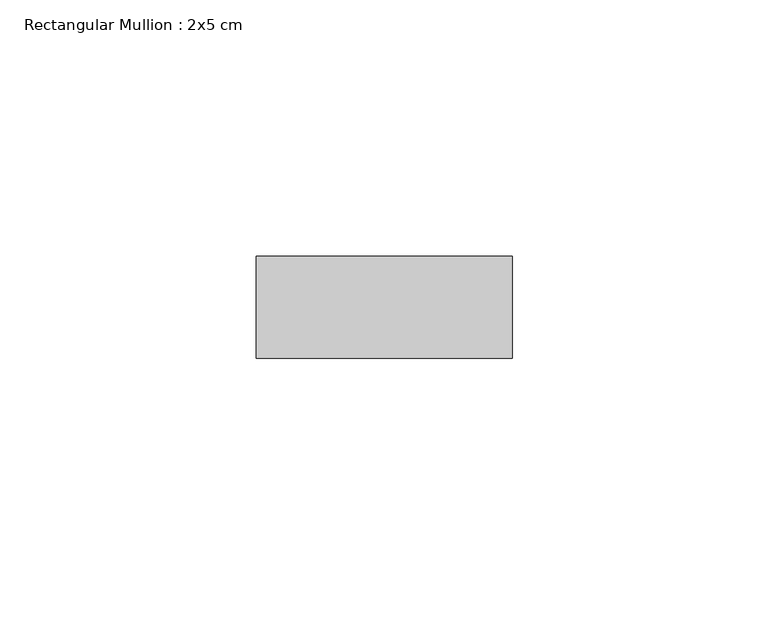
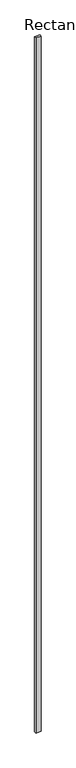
"""IFC4 building model written with IfcOpenShell, lengths in millimetres: member geometry, Rectangular Mullion : 2x5 cm."""

import ifcopenshell
import ifcopenshell.guid

model = None  # the IFC model being written
_history = None  # IfcOwnerHistory: only IFC2X3 demands one
_inside = {}  # id of a spatial element -> (the spatial element, [elements in it])
_under = {}  # id of a project, library or spatial element -> (it, [spatial elements below it])
_declared = {}  # id of a project -> (the project, [libraries it declares])
_typed = {}  # id of a type object -> (the type object, [elements of that type])
_made_of = {}  # id of a material, layer set ... -> (it, [elements and type objects made of it])


def new_model(schema):
    """Start an empty IFC model of exactly this schema.

    Asked for "IFC4X3", IfcOpenShell would pick the latest addendum, in which some entities
    have other attributes; the version numbers below select the first issue.
    IFC2X3 requires an IfcOwnerHistory on every rooted entity: one is made here for all.
    """
    global model, _history
    if schema == "IFC4X3":
        model = ifcopenshell.file(schema_version=(4, 3, 0, 0))
    else:
        model = ifcopenshell.file(schema=schema)
    _inside.clear()
    _under.clear()
    _declared.clear()
    _typed.clear()
    _made_of.clear()
    _history = None
    if model.schema == "IFC2X3":
        org = make("IfcOrganization", Name="unknown")
        user = make(
            "IfcPersonAndOrganization",
            ThePerson=make("IfcPerson", FamilyName="unknown"),
            TheOrganization=org,
        )
        app = make(
            "IfcApplication",
            ApplicationDeveloper=org,
            Version="unknown",
            ApplicationFullName="unknown",
            ApplicationIdentifier="unknown",
        )
        _history = make(
            "IfcOwnerHistory",
            OwningUser=user,
            OwningApplication=app,
            ChangeAction="ADDED",
            CreationDate=0,
        )
    return model


def make(cls, **values):
    """One entity of the class cls with the attributes given. An attribute that is None is left unset."""
    return model.create_entity(
        cls, **{name: value for name, value in values.items() if value is not None}
    )


def rooted(cls, **values):
    """An entity with a GlobalId (a new one), such as an element, a storey or a relation."""
    return make(cls, GlobalId=ifcopenshell.guid.new(), OwnerHistory=_history, **values)


def si_unit(unit_type, name, prefix=None):
    """IfcSIUnit, for example si_unit("LENGTHUNIT", "METRE", prefix="MILLI")."""
    return make("IfcSIUnit", UnitType=unit_type, Prefix=prefix, Name=name)


def assignment(units):
    """IfcUnitAssignment: the units of a project."""
    return None if units is None else make("IfcUnitAssignment", Units=units)


def point(xyz):
    """IfcCartesianPoint."""
    return None if xyz is None else make("IfcCartesianPoint", Coordinates=xyz)


def direction(xyz):
    """IfcDirection."""
    return None if xyz is None else make("IfcDirection", DirectionRatios=xyz)


def frame(location, z_axis=None, x_axis=None):
    """IfcAxis2Placement3D, a coordinate frame: its origin and axes. An axis left out is left unset."""
    return make(
        "IfcAxis2Placement3D",
        Location=point(location),
        Axis=direction(z_axis),
        RefDirection=direction(x_axis),
    )


def origin():
    """The frame at (0, 0, 0) with its axes left unset."""
    return frame((0.0, 0.0, 0.0))


def place(relative_to, where):
    """IfcLocalPlacement: puts the frame where relative to a parent placement (None: the world)."""
    return make(
        "IfcLocalPlacement", PlacementRelTo=relative_to, RelativePlacement=where
    )


def context(
    kind, dimensions, precision=None, world=None, true_north=None, identifier=None
):
    """IfcGeometricRepresentationContext, for example the 3D "Model" context."""
    return make(
        "IfcGeometricRepresentationContext",
        ContextIdentifier=identifier,
        ContextType=kind,
        CoordinateSpaceDimension=dimensions,
        Precision=precision,
        WorldCoordinateSystem=world,
        TrueNorth=true_north,
    )


def project(units=None, contexts=None):
    """IfcProject with its units and contexts."""
    return rooted(
        "IfcProject",
        Name="project",
        RepresentationContexts=contexts,
        UnitsInContext=assignment(units),
    )


def spatial(cls, under=None, at=None, **own):
    """A site, building, storey or space (cls), placed at a placement, below another one or the project."""
    s = rooted(cls, ObjectPlacement=at, **own)
    if under is not None:
        _under.setdefault(under.id(), (under, []))[1].append(s)
    return s


def polyline(points):
    """IfcPolyline through the points."""
    return make("IfcPolyline", Points=[point(p) for p in points])


def outline(outer, holes=None, kind="AREA"):
    """IfcArbitraryClosedProfileDef: a profile drawn as a closed curve; with holes, ...WithVoids."""
    if holes is None:
        return make("IfcArbitraryClosedProfileDef", ProfileType=kind, OuterCurve=outer)
    return make(
        "IfcArbitraryProfileDefWithVoids",
        ProfileType=kind,
        OuterCurve=outer,
        InnerCurves=holes,
    )


def extrude(swept, where, along, depth):
    """IfcExtrudedAreaSolid: the profile swept, set in the frame where, extruded along a direction by depth."""
    return make(
        "IfcExtrudedAreaSolid",
        SweptArea=swept,
        Position=where,
        ExtrudedDirection=direction(along),
        Depth=depth,
    )


def shape(context_of_items, identifier, shape_type, items):
    """IfcShapeRepresentation: the items that make up one representation, for example the "Body"."""
    return make(
        "IfcShapeRepresentation",
        ContextOfItems=context_of_items,
        RepresentationIdentifier=identifier,
        RepresentationType=shape_type,
        Items=items,
    )


def source(mapping_origin, context_of_items, identifier, shape_type, items):
    """IfcRepresentationMap: a shape defined once, which mapped items show again and again."""
    return make(
        "IfcRepresentationMap",
        MappingOrigin=mapping_origin,
        MappedRepresentation=shape(context_of_items, identifier, shape_type, items),
    )


def transform(
    local_origin,
    x_axis=None,
    y_axis=None,
    z_axis=None,
    scale=None,
    scale2=None,
    scale3=None,
    uniform=True,
):
    """IfcCartesianTransformationOperator3D, or its non-uniform kind. x_axis, y_axis, z_axis: its Axis1, 2, 3."""
    if uniform:
        return make(
            "IfcCartesianTransformationOperator3D",
            Axis1=direction(x_axis),
            Axis2=direction(y_axis),
            LocalOrigin=point(local_origin),
            Scale=scale,
            Axis3=direction(z_axis),
        )
    return make(
        "IfcCartesianTransformationOperator3DnonUniform",
        Axis1=direction(x_axis),
        Axis2=direction(y_axis),
        LocalOrigin=point(local_origin),
        Scale=scale,
        Axis3=direction(z_axis),
        Scale2=scale2,
        Scale3=scale3,
    )


def mapped(mapping_source, mapping_target):
    """IfcMappedItem: shows the shape of a source again, moved by a transform."""
    return make(
        "IfcMappedItem", MappingSource=mapping_source, MappingTarget=mapping_target
    )


def made_of(thing, what):
    """Note that an element or type object is made of a material, layer set ...; save() writes the relation."""
    if what is not None:
        _made_of.setdefault(what.id(), (what, []))[1].append(thing)
    return thing


def element(
    cls,
    number,
    at=None,
    inside=None,
    cuts=None,
    type_object=None,
    material=None,
    context=None,
    identifier="Body",
    shape_type=None,
    held_by="IfcProductDefinitionShape",
    body=None,
    shapes=None,
    **own,
):
    """One element of the class cls, such as IfcWall. Its Tag is "e" and its number.

    at: its placement. inside: the storey or other place that contains it. cuts: it is an
    opening in that element (IfcRelVoidsElement). A single representation is given by context,
    identifier, shape_type and body (its items); several are given by shapes. held_by: the class
    of the entity that holds the representations. save() writes the other relations.
    """
    e = rooted(cls, Tag="e%d" % number, ObjectPlacement=at, **own)
    if body is not None:
        shapes = [shape(context, identifier, shape_type, body)]
    if shapes is not None:
        e.Representation = make(held_by, Representations=shapes)
    if inside is not None:
        _inside.setdefault(inside.id(), (inside, []))[1].append(e)
    if cuts is not None:
        rooted(
            "IfcRelVoidsElement", RelatingBuildingElement=cuts, RelatedOpeningElement=e
        )
    if type_object is not None:
        _typed.setdefault(type_object.id(), (type_object, []))[1].append(e)
    return made_of(e, material)


def aggregate(whole, parts):
    """IfcRelAggregates: a whole, such as a stair, and the parts it consists of."""
    return rooted("IfcRelAggregates", RelatingObject=whole, RelatedObjects=parts)


def save(model, path):
    """Write the relations noted so far, then the file.

    IfcRelAggregates (storeys below a building ...), IfcRelContainedInSpatialStructure (elements
    in a storey), IfcRelDefinesByType, IfcRelAssociatesMaterial and IfcRelDeclares: one each for
    every whole, place, type object, material and project.
    """
    for whole, parts in _under.values():
        aggregate(whole, parts)
    for where, things in _inside.values():
        rooted(
            "IfcRelContainedInSpatialStructure",
            RelatedElements=things,
            RelatingStructure=where,
        )
    for kind, things in _typed.values():
        rooted("IfcRelDefinesByType", RelatedObjects=things, RelatingType=kind)
    for what, things in _made_of.values():
        rooted("IfcRelAssociatesMaterial", RelatedObjects=things, RelatingMaterial=what)
    for by, libraries in _declared.values():
        rooted("IfcRelDeclares", RelatingContext=by, RelatedDefinitions=libraries)
    model.write(path)


def rectangular_mullion_2x5_cm_8fd494bf(model_context):
    return source(origin(), model_context, "Body", "SweptSolid", [
        extrude(outline(polyline([(50.0, 20.0), (50.0, 0.0), (0.0, 0.0), (0.0, 20.0), (50.0, 20.0)])), frame((0.0, 0.0, -6953.6090445), z_axis=(0.0, 0.0, 1.0), x_axis=(1.0, 0.0, 0.0)), (0.0, 0.0, 1.0), 6953.6090445),
    ])


if __name__ == "__main__":
    model = new_model("IFC4")
    model_context = context("Model", 3, world=origin())
    ifc_project = project(units=[si_unit("LENGTHUNIT", "METRE", prefix="MILLI")], contexts=[model_context])
    site = spatial("IfcSite", under=ifc_project)
    building = spatial("IfcBuilding", under=site)
    placement = place(None, origin())
    rectangular_mullion_2x5_cm_shape = rectangular_mullion_2x5_cm_8fd494bf(model_context)
    element("IfcMember", 1, ObjectType="Rectangular Mullion : 2x5 cm", at=placement, inside=building, context=model_context, shape_type="MappedRepresentation", body=[
        mapped(rectangular_mullion_2x5_cm_shape, transform((0.0, 0.0, 0.0), x_axis=(1.0, 0.0, 0.0), y_axis=(0.0, 1.0, 0.0), z_axis=(0.0, 0.0, 1.0))),
    ])
    save(model, "model.ifc")
